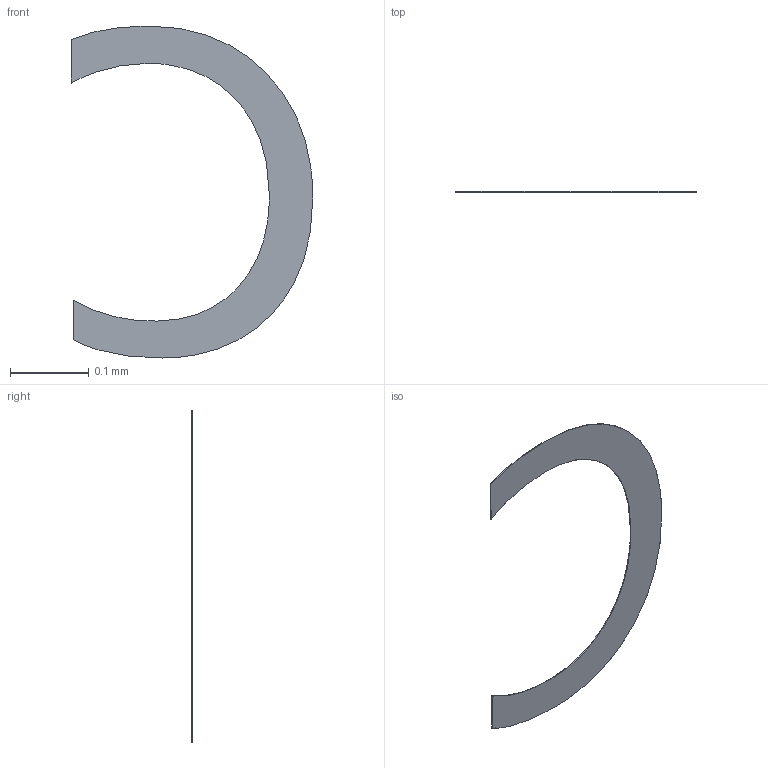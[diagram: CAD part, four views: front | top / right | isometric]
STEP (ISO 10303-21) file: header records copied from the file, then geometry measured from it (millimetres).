
FILE_DESCRIPTION(/* description */ ('STEP AP242 Edition 2','CAx-IF Rec.Pracs.---Representation and Presentation of Product Manufacturing Information (PMI)---4.0---2014-10-13','CAx-IF Rec.Pracs.---3D Tessellated Geometry---0.4---2014-09-14','2;1','CAx-IF Rec.Pracs.---User Defined Attributes---1.5---2016-08-15'),/* implementation_level */ '2;1');
FILE_NAME(/* name */ 'Assembly 1 - SW-TH_EC11E18244A5~SW-TH_EC11E18244A5-L11.7-W12.0-H24.5-P2.5-LS14.5~nxQB (10)',/* time_stamp */ '2026-04-02T09:55:29Z',/* author */ (''),/* organization */ (''),/* preprocessor_version */ 'ST-DEVELOPER v20',/* originating_system */ 'ONSHAPE BY PTC INC, 1.212',/* authorisation */ ' ');
FILE_SCHEMA (('AP242_MANAGED_MODEL_BASED_3D_ENGINEERING_MIM_LF { 1 0 10303 442 3 1 4 }'));
Length unit declared in the file: metre
Products named in the file (1): SW-TH_EC11E18244A5~SW-TH_EC11E18244A5-L11.7-W12.0-H24.5-P2.5-LS14.5~n
xQB
Bounding box: 0.31 x 0 x 0.42 mm (x, y, z)
Volume: 0 mm3; surface area: 0.1 mm2
Topology: 1 solids, 1 shells, 16 faces, 42 edges, 28 vertices
Faces by surface type: bspline 12, plane 4
Entity records: 693 total; most frequent: CARTESIAN_POINT 243, ORIENTED_EDGE 84, EDGE_CURVE 42, VERTEX_POINT 28, DIRECTION 28, B_SPLINE_CURVE_WITH_KNOTS 24, LINE 18, VECTOR 18
